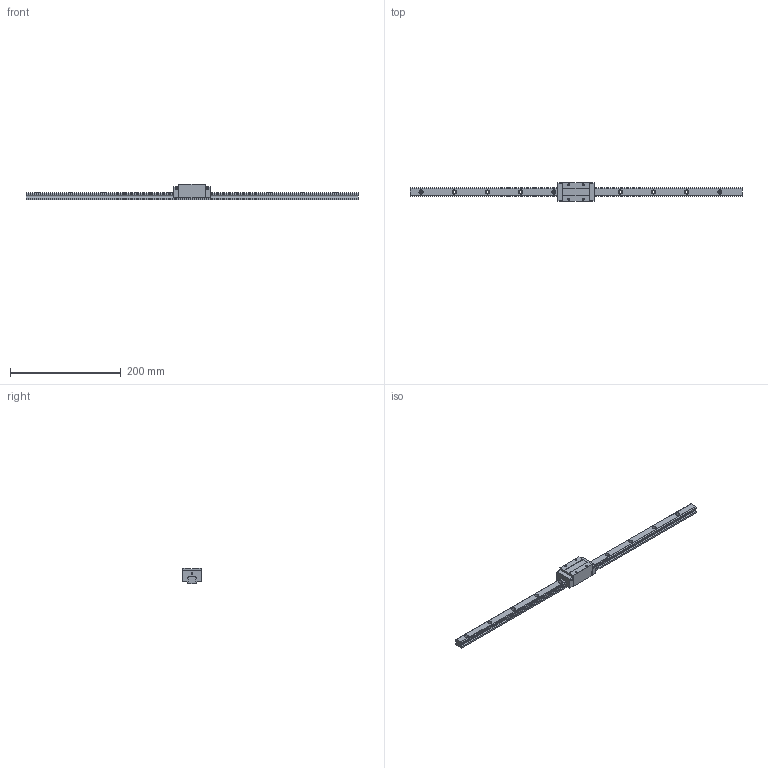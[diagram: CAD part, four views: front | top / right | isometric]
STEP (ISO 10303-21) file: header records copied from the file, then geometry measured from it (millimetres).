
FILE_DESCRIPTION (( 'STEP AP203' ), '1' );
FILE_NAME ('TRH15VL-XN.STEP', '2024-05-23T03:06:38', ( '' ), ( '' ), 'SwSTEP 2.0', 'SolidWorks 2022', '' );
FILE_SCHEMA (( 'CONFIG_CONTROL_DESIGN' ));
Length unit declared in the file: millimetre
Products named in the file (1): TRH15VL-XN
Bounding box: 600 x 34 x 28 mm (x, y, z)
Volume: 143747.7 mm3; surface area: 47910.8 mm2
Topology: 2 solids, 2 shells, 200 faces, 520 edges, 336 vertices
Faces by surface type: cylinder 96, plane 88, cone 16
Entity records: 6223 total; most frequent: DIRECTION 1114, CARTESIAN_POINT 1049, ORIENTED_EDGE 1024, EDGE_CURVE 512, AXIS2_PLACEMENT_3D 401, VERTEX_POINT 336, LINE 312, VECTOR 312
